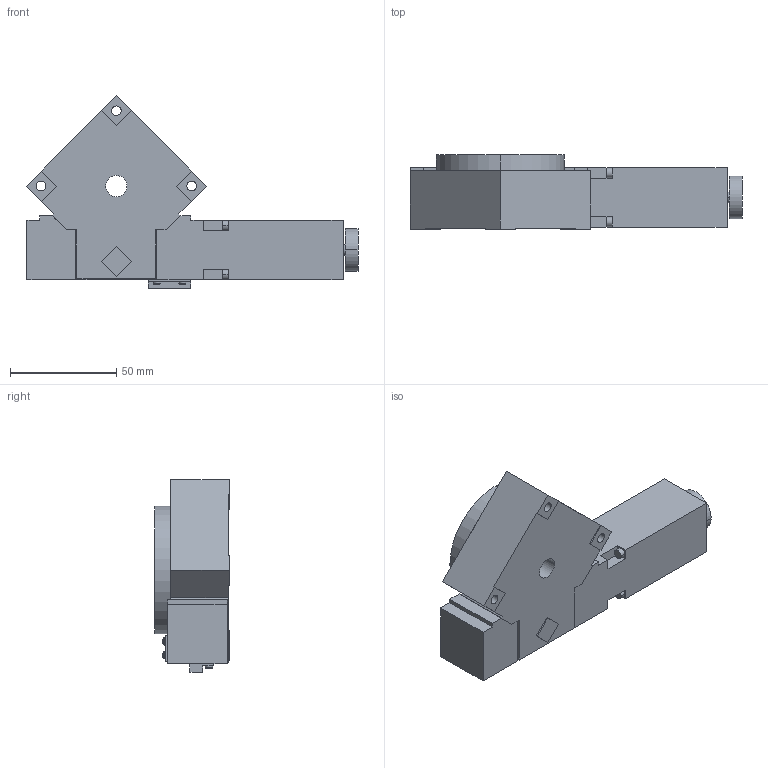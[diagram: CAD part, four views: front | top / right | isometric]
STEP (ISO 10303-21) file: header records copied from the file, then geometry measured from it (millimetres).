
FILE_DESCRIPTION (( 'STEP AP203' ), '1' );
FILE_NAME ('ARS-636-HM.STEP', '2008-02-01T07:54:37', ( '' ), ( '' ), 'SwSTEP 2.0', 'SolidWorks 2007', '' );
FILE_SCHEMA (( 'CONFIG_CONTROL_DESIGN' ));
Length unit declared in the file: millimetre
Products named in the file (3): ARS-636-HM-2_蹬怮椔; ARS-636-HM-1_蹬怮椔; ARS-636-HM
Assembly tree (2 placements, depth 2):
  ARS-636-HM
    ARS-636-HM-2_蹬怮椔
    ARS-636-HM-1_蹬怮椔
Bounding box: 155.93 x 35 x 90.43 mm (x, y, z)
Volume: 212334 mm3; surface area: 39637.6 mm2
Topology: 2 solids, 2 shells, 187 faces, 461 edges, 301 vertices
Faces by surface type: plane 99, cylinder 52, cone 12, torus 12, sphere 12
Entity records: 5892 total; most frequent: DIRECTION 1013, CARTESIAN_POINT 954, ORIENTED_EDGE 922, EDGE_CURVE 461, AXIS2_PLACEMENT_3D 360, VERTEX_POINT 301, VECTOR 293, LINE 293
